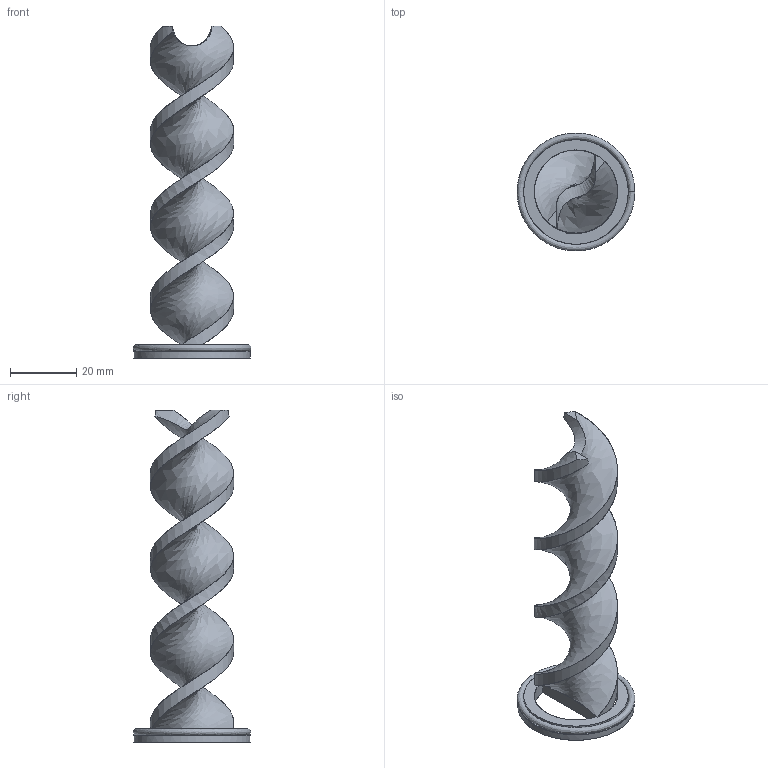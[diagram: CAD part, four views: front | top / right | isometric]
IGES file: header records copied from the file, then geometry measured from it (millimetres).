
Global section: file name: E:\UnigraphicsGraphicData\MISUMI_MOLD-PARTS\NX\3d_wrcan25-100_00632_r00.igs; native system: NX V5.0; preprocessor: UGS NX IGES V5.0; author: MISUMI; date: 20101115.183638; units: millimetre
Bounding box: 35.5 x 35.5 x 100 mm (x, y, z)
Surface area: 10018.1 mm2 (no closed solid volume)
Topology: 0 solids, 0 shells, 21 faces, 194 edges, 187 vertices
Faces by surface type: bspline 21
